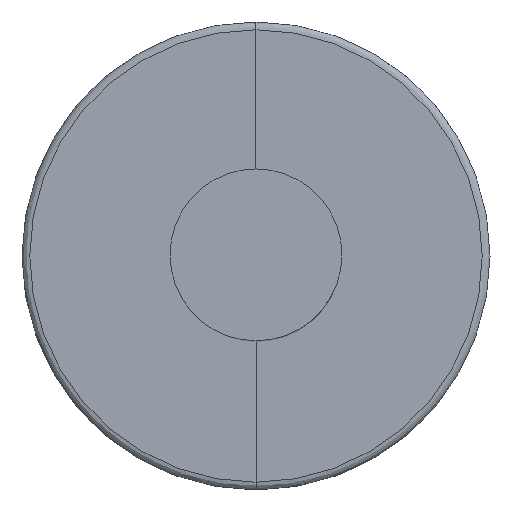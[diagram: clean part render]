
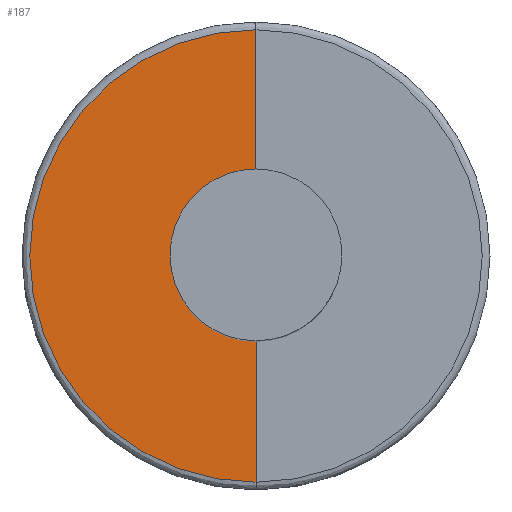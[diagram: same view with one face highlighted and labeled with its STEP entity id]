
A CAD part, top view. The second image highlights one B-rep face of the part: STEP entity #187.
In plain terms, the highlighted planar face has unit normal (0, 0, 1).
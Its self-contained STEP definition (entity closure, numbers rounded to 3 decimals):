
#187 = ADVANCED_FACE('',(#188),#207,.F.);
#188 = FACE_BOUND('',#189,.T.);
#189 = EDGE_LOOP('',(#190,#201));
#190 = ORIENTED_EDGE('',*,*,#191,.T.);
#191 = EDGE_CURVE('',#192,#194,#196,.T.);
#192 = VERTEX_POINT('',#193);
#193 = CARTESIAN_POINT('',(0.,28.946,
    19.));
#194 = VERTEX_POINT('',#195);
#195 = CARTESIAN_POINT('',(0.,-28.946,
    19.));
#196 = CIRCLE('',#197,28.946);
#197 = AXIS2_PLACEMENT_3D('',#198,#199,#200);
#198 = CARTESIAN_POINT('',(0.,0.,
    19.));
#199 = DIRECTION('',(0.,0.,1.));
#200 = DIRECTION('',(0.,-1.,0.));
#201 = ORIENTED_EDGE('',*,*,#202,.T.);
#202 = EDGE_CURVE('',#194,#192,#203,.T.);
#203 = LINE('',#204,#205);
#204 = CARTESIAN_POINT('',(0.,-28.946,
    19.));
#205 = VECTOR('',#206,1.);
#206 = DIRECTION('',(0.,1.,0.));
#207 = PLANE('',#208);
#208 = AXIS2_PLACEMENT_3D('',#209,#210,#211);
#209 = CARTESIAN_POINT('',(0.,0.,
    19.));
#210 = DIRECTION('',(0.,0.,-1.));
#211 = DIRECTION('',(0.,-1.,0.));
